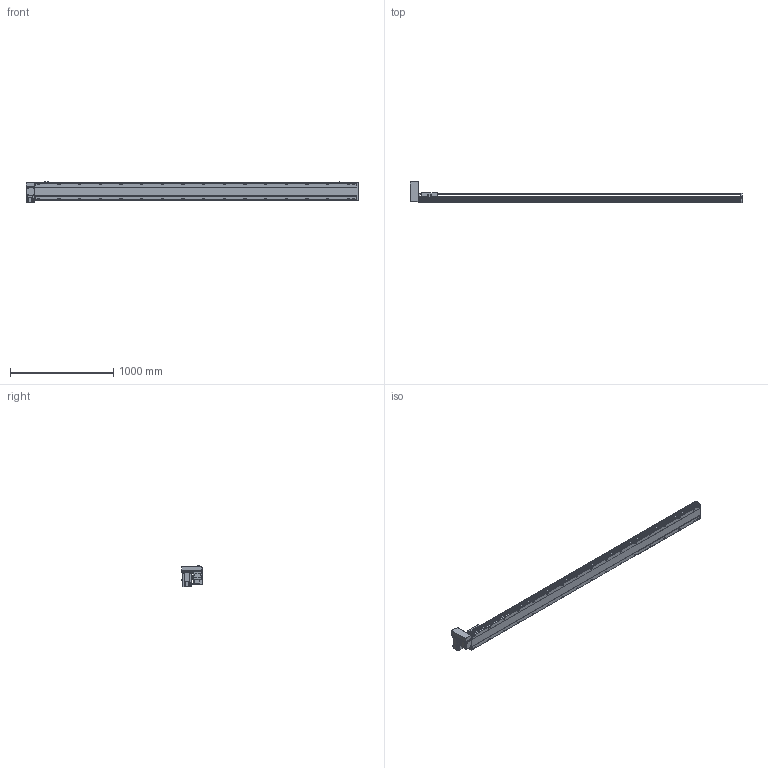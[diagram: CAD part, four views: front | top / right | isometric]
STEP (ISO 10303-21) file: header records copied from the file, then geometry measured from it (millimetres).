
FILE_DESCRIPTION( ( 'STEP AP214' ), '1' );
FILE_NAME( 'x:/temp/worker_5/temp/exporttempdir_3988_148_RJFi0/format_0/PBS170-P40-S2850-RU-T75-C1-N(0).stp', '2022-06-08T06:01:21', ( 'License CC BY-ND 4.0' ), ( 'CADENAS' ), ' ', 'PARTsolutions', ' ' );
FILE_SCHEMA( ( 'AUTOMOTIVE_DESIGN { 1 0 10303 214 1 1 1 1 }' ) );
Length unit declared in the file: millimetre
Products named in the file (7): PBS170-P40-S2850-RU-T75-C1-N(0); _PBS170-S2850()_body; _PBS170T-RU_motors; _T75-p1; _PBS170_sliser; _PBS170_plant; _PBS170_sensor
Assembly tree (8 placements, depth 2):
  PBS170-P40-S2850-RU-T75-C1-N(0)
    _PBS170-S2850()_body
    _PBS170T-RU_motors
    _T75-p1
    _PBS170_sliser
    _PBS170_plant
    _PBS170_sensor  x3
Bounding box: 3213 x 206 x 205.3 mm (x, y, z)
Volume: 24169487 mm3; surface area: 3031626.1 mm2
Topology: 8 solids, 8 shells, 1226 faces, 3235 edges, 2108 vertices
Faces by surface type: plane 741, cylinder 411, cone 64, sphere 8, torus 2
Full cylindrical faces by diameter (mm): 3.242 x4, 4 x2, 4.4 x4, 4.5 x6, 4.917 x4, 6 x9, 6.647 x42, 7 x2, 7.5 x4, 8 x8, 8.5 x34, 10 x4, 10.5 x34, 11 x2, 30 x2, 40 x1, 70 x1
Entity records: 45518 total; most frequent: CARTESIAN_POINT 7733, DIRECTION 5930, ORIENTED_EDGE 5568, EDGE_CURVE 2784, AXIS2_PLACEMENT_3D 2107, VERTEX_POINT 1946, LINE 1716, VECTOR 1716
